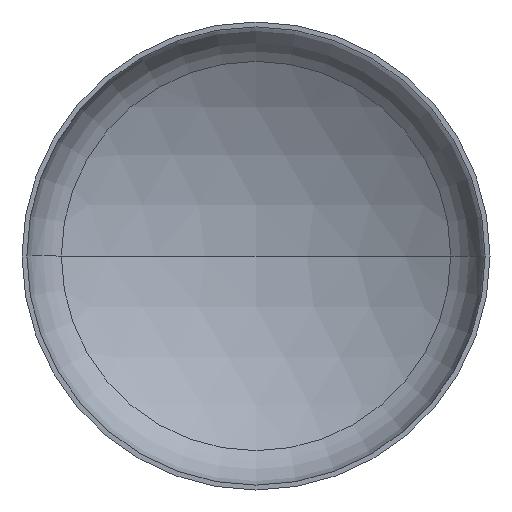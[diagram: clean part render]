
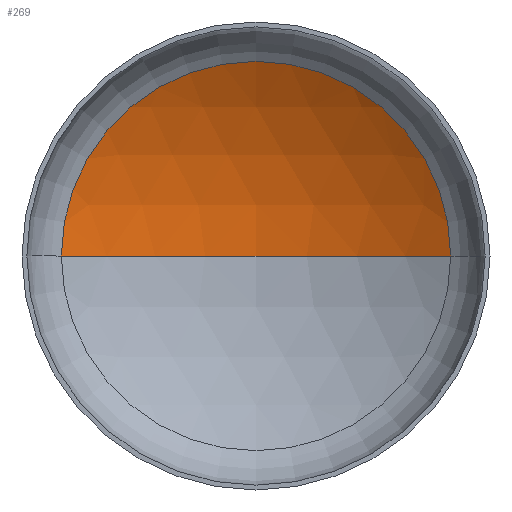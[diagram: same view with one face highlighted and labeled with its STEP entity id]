
A CAD part, front view. The second image highlights one B-rep face of the part: STEP entity #269.
In plain terms, the highlighted spherical face has radius 2240 mm.
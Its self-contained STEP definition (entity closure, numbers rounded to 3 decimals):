
#14 = EDGE_LOOP ( 'NONE', ( #133, #172, #123 ) ) ;
#15 = AXIS2_PLACEMENT_3D ( 'NONE', #71, #281, #81 ) ;
#21 = AXIS2_PLACEMENT_3D ( 'NONE', #72, #257, #186 ) ;
#23 = AXIS2_PLACEMENT_3D ( 'NONE', #189, #354, #214 ) ;
#41 = VERTEX_POINT ( 'NONE', #254 ) ;
#70 = AXIS2_PLACEMENT_3D ( 'NONE', #204, #212, #213 ) ;
#71 = CARTESIAN_POINT ( 'NONE',  ( 0., 457.32, 0. ) ) ;
#72 = CARTESIAN_POINT ( 'NONE',  ( 0., -1456.163, 0. ) ) ;
#81 = DIRECTION ( 'NONE',  ( 1., 0., 0. ) ) ;
#123 = ORIENTED_EDGE ( 'NONE', *, *, #360, .T. ) ;
#127 = VERTEX_POINT ( 'NONE', #325 ) ;
#133 = ORIENTED_EDGE ( 'NONE', *, *, #355, .F. ) ;
#172 = ORIENTED_EDGE ( 'NONE', *, *, #346, .T. ) ;
#186 = DIRECTION ( 'NONE',  ( 1., 0., 0. ) ) ;
#189 = CARTESIAN_POINT ( 'NONE',  ( 0., -1456.163, 0. ) ) ;
#195 = CIRCLE ( 'NONE', #15, 1164.552 ) ;
#203 = CARTESIAN_POINT ( 'NONE',  ( -1164.552, 457.32, 0. ) ) ;
#204 = CARTESIAN_POINT ( 'NONE',  ( 0., -1456.163, 0. ) ) ;
#212 = DIRECTION ( 'NONE',  ( 0., 0., -1. ) ) ;
#213 = DIRECTION ( 'NONE',  ( -1., 0., 0. ) ) ;
#214 = DIRECTION ( 'NONE',  ( -1., 0., 0. ) ) ;
#221 = SPHERICAL_SURFACE ( 'NONE', #70, 2240. ) ;
#254 = CARTESIAN_POINT ( 'NONE',  ( 1164.552, 457.32, 0. ) ) ;
#255 = VERTEX_POINT ( 'NONE', #203 ) ;
#257 = DIRECTION ( 'NONE',  ( 0., 0., 1. ) ) ;
#260 = CIRCLE ( 'NONE', #21, 2240. ) ;
#269 = ADVANCED_FACE ( 'NONE', ( #395 ), #221, .F. ) ;
#281 = DIRECTION ( 'NONE',  ( 0., -1., 0. ) ) ;
#325 = CARTESIAN_POINT ( 'NONE',  ( 0., 783.837, 0. ) ) ;
#332 = CIRCLE ( 'NONE', #23, 2240. ) ;
#346 = EDGE_CURVE ( 'NONE', #127, #41, #332, .T. ) ;
#354 = DIRECTION ( 'NONE',  ( 0., 0., -1. ) ) ;
#355 = EDGE_CURVE ( 'NONE', #127, #255, #260, .T. ) ;
#360 = EDGE_CURVE ( 'NONE', #41, #255, #195, .T. ) ;
#395 = FACE_OUTER_BOUND ( 'NONE', #14, .T. ) ;
